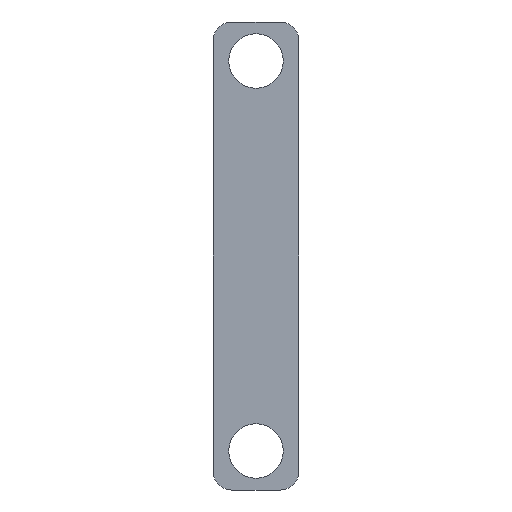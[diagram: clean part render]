
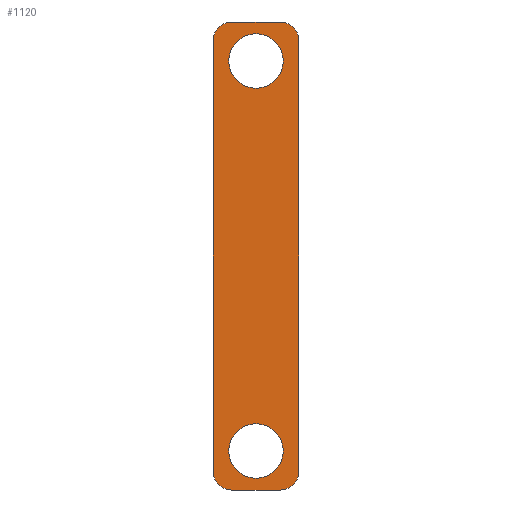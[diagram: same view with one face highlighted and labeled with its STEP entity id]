
A CAD part, front view. The second image highlights one B-rep face of the part: STEP entity #1120.
In plain terms, the highlighted planar face has unit normal (0, 1, 0).
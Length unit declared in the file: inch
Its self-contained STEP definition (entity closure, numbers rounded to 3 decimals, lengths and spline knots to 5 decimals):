
#71=FACE_BOUND('',#231,.T.);
#72=FACE_BOUND('',#232,.T.);
#87=PLANE('',#1304);
#155=FACE_OUTER_BOUND('',#230,.T.);
#230=EDGE_LOOP('',(#1039,#1040,#1041,#1042,#1043,#1044,#1045,#1046));
#231=EDGE_LOOP('',(#1047));
#232=EDGE_LOOP('',(#1048));
#298=LINE('',#2034,#367);
#299=LINE('',#2038,#368);
#300=LINE('',#2042,#369);
#301=LINE('',#2045,#370);
#367=VECTOR('',#1698,0.3937);
#368=VECTOR('',#1701,0.3937);
#369=VECTOR('',#1704,0.3937);
#370=VECTOR('',#1707,0.3937);
#462=CIRCLE('',#1305,0.06);
#463=CIRCLE('',#1306,0.06);
#464=CIRCLE('',#1307,0.06);
#465=CIRCLE('',#1308,0.06);
#466=CIRCLE('',#1309,0.0875);
#467=CIRCLE('',#1310,0.0875);
#561=VERTEX_POINT('',#2030);
#562=VERTEX_POINT('',#2031);
#563=VERTEX_POINT('',#2033);
#564=VERTEX_POINT('',#2035);
#565=VERTEX_POINT('',#2037);
#566=VERTEX_POINT('',#2039);
#567=VERTEX_POINT('',#2041);
#568=VERTEX_POINT('',#2043);
#569=VERTEX_POINT('',#2046);
#570=VERTEX_POINT('',#2048);
#727=EDGE_CURVE('',#561,#562,#462,.T.);
#728=EDGE_CURVE('',#562,#563,#298,.T.);
#729=EDGE_CURVE('',#563,#564,#463,.T.);
#730=EDGE_CURVE('',#564,#565,#299,.T.);
#731=EDGE_CURVE('',#565,#566,#464,.T.);
#732=EDGE_CURVE('',#566,#567,#300,.T.);
#733=EDGE_CURVE('',#567,#568,#465,.T.);
#734=EDGE_CURVE('',#568,#561,#301,.T.);
#735=EDGE_CURVE('',#569,#569,#466,.T.);
#736=EDGE_CURVE('',#570,#570,#467,.T.);
#1039=ORIENTED_EDGE('',*,*,#727,.T.);
#1040=ORIENTED_EDGE('',*,*,#728,.T.);
#1041=ORIENTED_EDGE('',*,*,#729,.T.);
#1042=ORIENTED_EDGE('',*,*,#730,.T.);
#1043=ORIENTED_EDGE('',*,*,#731,.T.);
#1044=ORIENTED_EDGE('',*,*,#732,.T.);
#1045=ORIENTED_EDGE('',*,*,#733,.T.);
#1046=ORIENTED_EDGE('',*,*,#734,.T.);
#1047=ORIENTED_EDGE('',*,*,#735,.F.);
#1048=ORIENTED_EDGE('',*,*,#736,.F.);
#1120=ADVANCED_FACE('',(#155,#71,#72),#87,.T.);
#1304=AXIS2_PLACEMENT_3D('',#2029,#1694,#1695);
#1305=AXIS2_PLACEMENT_3D('',#2032,#1696,#1697);
#1306=AXIS2_PLACEMENT_3D('',#2036,#1699,#1700);
#1307=AXIS2_PLACEMENT_3D('',#2040,#1702,#1703);
#1308=AXIS2_PLACEMENT_3D('',#2044,#1705,#1706);
#1309=AXIS2_PLACEMENT_3D('',#2047,#1708,#1709);
#1310=AXIS2_PLACEMENT_3D('',#2049,#1710,#1711);
#1694=DIRECTION('center_axis',(0.,1.,0.));
#1695=DIRECTION('ref_axis',(0.,0.,1.));
#1696=DIRECTION('center_axis',(0.,1.,0.));
#1697=DIRECTION('ref_axis',(0.707,0.,0.707));
#1698=DIRECTION('',(0.,0.,-1.));
#1699=DIRECTION('center_axis',(0.,1.,0.));
#1700=DIRECTION('ref_axis',(0.707,0.,-0.707));
#1701=DIRECTION('',(-1.,0.,0.));
#1702=DIRECTION('center_axis',(0.,1.,0.));
#1703=DIRECTION('ref_axis',(-0.707,0.,-0.707));
#1704=DIRECTION('',(0.,0.,1.));
#1705=DIRECTION('center_axis',(0.,1.,0.));
#1706=DIRECTION('ref_axis',(-0.707,0.,0.707));
#1707=DIRECTION('',(1.,0.,0.));
#1708=DIRECTION('center_axis',(0.,1.,0.));
#1709=DIRECTION('ref_axis',(1.,0.,0.));
#1710=DIRECTION('center_axis',(0.,1.,0.));
#1711=DIRECTION('ref_axis',(1.,0.,0.));
#2029=CARTESIAN_POINT('Origin',(0.,-0.001,0.));
#2030=CARTESIAN_POINT('',(0.0775,-0.001,0.75));
#2031=CARTESIAN_POINT('',(0.1375,-0.001,0.69));
#2032=CARTESIAN_POINT('Origin',(0.0775,-0.001,0.69));
#2033=CARTESIAN_POINT('',(0.1375,-0.001,-0.69));
#2034=CARTESIAN_POINT('',(0.1375,-0.001,0.75));
#2035=CARTESIAN_POINT('',(0.0775,-0.001,-0.75));
#2036=CARTESIAN_POINT('Origin',(0.0775,-0.001,-0.69));
#2037=CARTESIAN_POINT('',(-0.0775,-0.001,-0.75));
#2038=CARTESIAN_POINT('',(0.1375,-0.001,-0.75));
#2039=CARTESIAN_POINT('',(-0.1375,-0.001,-0.69));
#2040=CARTESIAN_POINT('Origin',(-0.0775,-0.001,-0.69));
#2041=CARTESIAN_POINT('',(-0.1375,-0.001,0.69));
#2042=CARTESIAN_POINT('',(-0.1375,-0.001,-0.75));
#2043=CARTESIAN_POINT('',(-0.0775,-0.001,0.75));
#2044=CARTESIAN_POINT('Origin',(-0.0775,-0.001,0.69));
#2045=CARTESIAN_POINT('',(-0.1375,-0.001,0.75));
#2046=CARTESIAN_POINT('',(-0.0875,-0.001,-0.625));
#2047=CARTESIAN_POINT('Origin',(0.,-0.001,-0.625));
#2048=CARTESIAN_POINT('',(-0.0875,-0.001,0.625));
#2049=CARTESIAN_POINT('Origin',(0.,-0.001,0.625));
